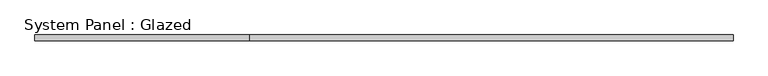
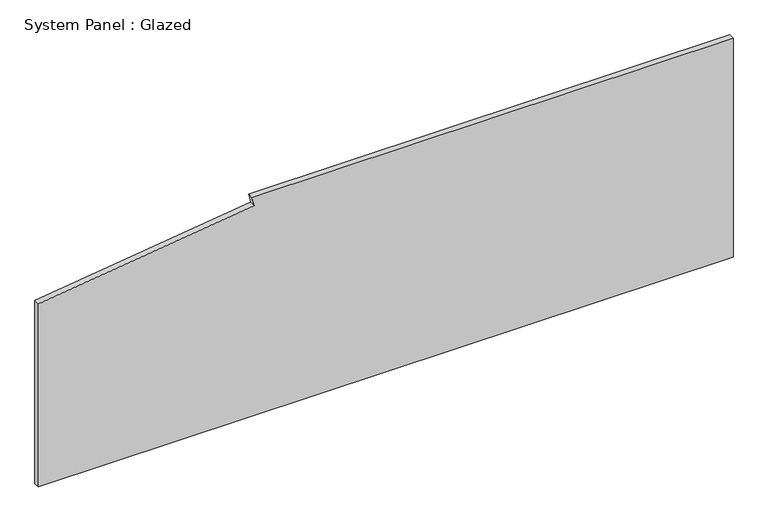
"""IFC4 building model written with IfcOpenShell, lengths in millimetres: plate geometry, System Panel : Glazed."""

from ifc_helpers import new_model, si_unit, frame, origin, place, context, project, spatial, polyline, outline, extrude, source, transform, mapped, element, save


def system_panel_glazed_9da0f904(model_context):
    return source(origin(), model_context, "Body", "SweptSolid", [
        extrude(outline(polyline([(0.0, -1504.95), (0.0, 1504.95), (1003.3, 1504.95), (1003.3, -579.4979827), (963.1567592, -569.9622494), (839.1424058, -1504.95), (0.0, -1504.95)])), frame((0.0, 19.05, 0.0), z_axis=(0.0, 1.0, 0.0), x_axis=(0.0, 0.0, 1.0)), (0.0, 0.0, 1.0), 25.4),
    ])


if __name__ == "__main__":
    model = new_model("IFC4")
    model_context = context("Model", 3, world=origin())
    ifc_project = project(units=[si_unit("LENGTHUNIT", "METRE", prefix="MILLI")], contexts=[model_context])
    site = spatial("IfcSite", under=ifc_project)
    building = spatial("IfcBuilding", under=site)
    placement = place(None, origin())
    system_panel_glazed_shape = system_panel_glazed_9da0f904(model_context)
    element("IfcPlate", 1, ObjectType="System Panel : Glazed", at=placement, inside=building, context=model_context, shape_type="MappedRepresentation", body=[
        mapped(system_panel_glazed_shape, transform((0.0, 0.0, 0.0), x_axis=(1.0, 0.0, 0.0), y_axis=(0.0, 1.0, 0.0), z_axis=(0.0, 0.0, 1.0))),
    ])
    save(model, "model.ifc")
